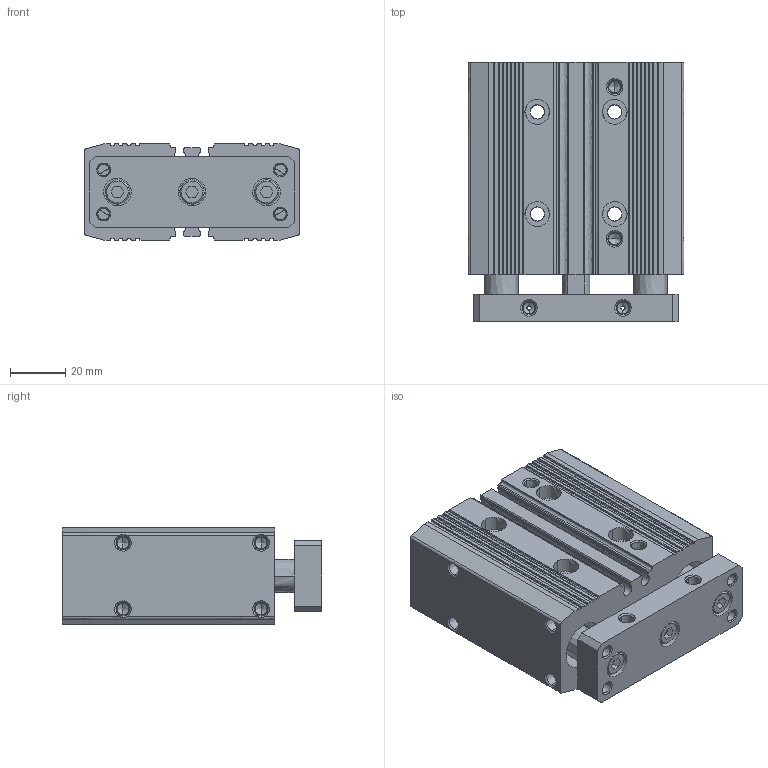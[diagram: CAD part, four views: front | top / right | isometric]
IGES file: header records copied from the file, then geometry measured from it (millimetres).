
Start section:  PTC IGES file: 060497_gcyl-20x40.igs
Global section: file name: 060497_gcyl-20x40.igs; native system: Pro/ENGINEER by Parametric Technology Corporation; preprocessor: 2004090; author: KAIHATSU01; organization: Unknown; date: 061017.092330; units: millimetre
Bounding box: 78 x 94 x 35 mm (x, y, z)
Volume: 197604.7 mm3; surface area: 51262.4 mm2
Topology: 1 solids, 1 shells, 497 faces, 1270 edges, 776 vertices
Faces by surface type: bspline 497
